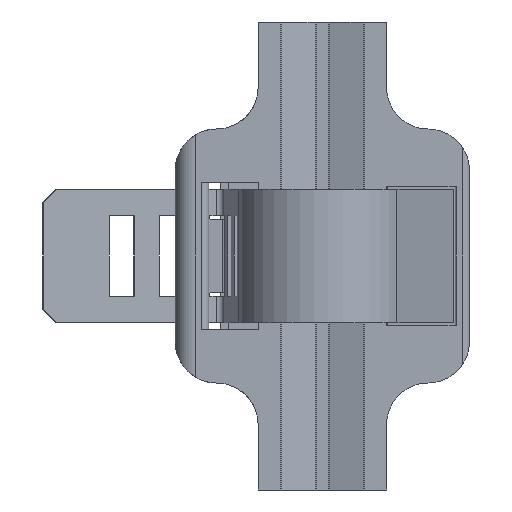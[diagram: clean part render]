
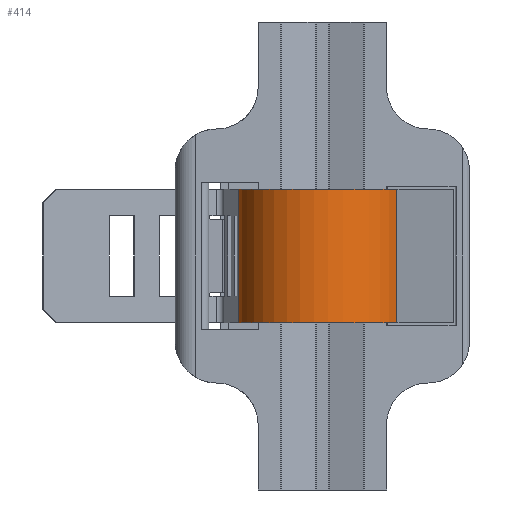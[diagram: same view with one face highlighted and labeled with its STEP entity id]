
A CAD part, front view. The second image highlights one B-rep face of the part: STEP entity #414.
In plain terms, the highlighted cylindrical face has radius 6.3 mm (diameter 12.6 mm), a partial arc.
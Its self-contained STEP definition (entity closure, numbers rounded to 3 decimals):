
#414 = ADVANCED_FACE( '', ( #847 ), #848, .T. );
#847 = FACE_OUTER_BOUND( '', #1276, .T. );
#848 = CYLINDRICAL_SURFACE( '', #1277, 6.3 );
#1276 = EDGE_LOOP( '', ( #2515, #2516, #2517, #2518 ) );
#1277 = AXIS2_PLACEMENT_3D( '', #2519, #2520, #2521 );
#2515 = ORIENTED_EDGE( '', *, *, #2997, .T. );
#2516 = ORIENTED_EDGE( '', *, *, #2952, .F. );
#2517 = ORIENTED_EDGE( '', *, *, #3080, .F. );
#2518 = ORIENTED_EDGE( '', *, *, #3054, .T. );
#2519 = CARTESIAN_POINT( '', ( 0., -5.15, 5. ) );
#2520 = DIRECTION( '', ( 0., 0., 1. ) );
#2521 = DIRECTION( '', ( -1., 0., 0. ) );
#2952 = EDGE_CURVE( '', #3684, #3682, #3686, .T. );
#2997 = EDGE_CURVE( '', #3742, #3682, #3743, .T. );
#3054 = EDGE_CURVE( '', #3811, #3742, #3812, .T. );
#3080 = EDGE_CURVE( '', #3811, #3684, #3838, .T. );
#3682 = VERTEX_POINT( '', #4770 );
#3684 = VERTEX_POINT( '', #4773 );
#3686 = LINE( '', #4776, #4777 );
#3742 = VERTEX_POINT( '', #4857 );
#3743 = CIRCLE( '', #4858, 6.3 );
#3811 = VERTEX_POINT( '', #4958 );
#3812 = LINE( '', #4959, #4960 );
#3838 = CIRCLE( '', #4990, 6.3 );
#4770 = CARTESIAN_POINT( '', ( 5.583, -8.068, -5. ) );
#4773 = CARTESIAN_POINT( '', ( 5.583, -8.068, 5. ) );
#4776 = CARTESIAN_POINT( '', ( 5.583, -8.068, 5. ) );
#4777 = VECTOR( '', #5420, 1000. );
#4857 = CARTESIAN_POINT( '', ( -6.255, -5.902, -5. ) );
#4858 = AXIS2_PLACEMENT_3D( '', #5469, #5470, #5471 );
#4958 = CARTESIAN_POINT( '', ( -6.255, -5.902, 5. ) );
#4959 = CARTESIAN_POINT( '', ( -6.255, -5.902, 5. ) );
#4960 = VECTOR( '', #5522, 1000. );
#4990 = AXIS2_PLACEMENT_3D( '', #5533, #5534, #5535 );
#5420 = DIRECTION( '', ( 0., 0., -1. ) );
#5469 = CARTESIAN_POINT( '', ( 0., -5.15, -5. ) );
#5470 = DIRECTION( '', ( 0., 0., 1. ) );
#5471 = DIRECTION( '', ( 1., 0., 0. ) );
#5522 = DIRECTION( '', ( 0., 0., -1. ) );
#5533 = CARTESIAN_POINT( '', ( 0., -5.15, 5. ) );
#5534 = DIRECTION( '', ( 0., 0., 1. ) );
#5535 = DIRECTION( '', ( 1., 0., 0. ) );
